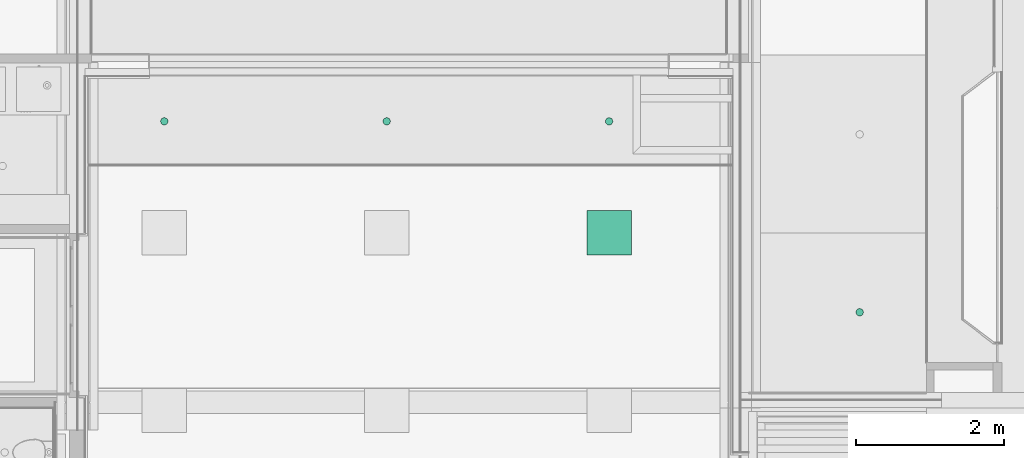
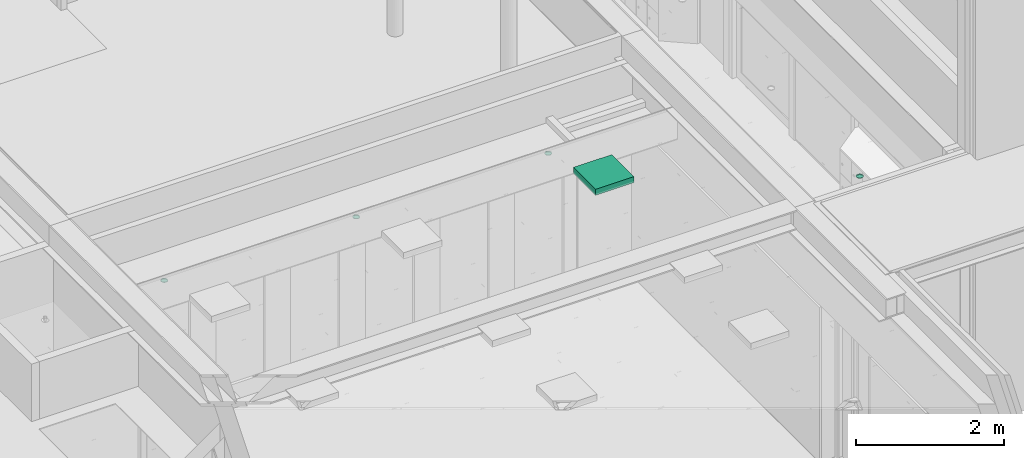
# One storey, part 240 of 347: 5 flow terminals.
"""IFC2X3 building model written with IfcOpenShell, lengths in millimetres."""

from ifc_helpers import new_model, entity, si_unit, converted_unit, derived_unit, money_unit, direction, frame, origin_with_axes, place, context, subcontext, project, spatial, open_shell, faceted_brep, surface_model, source, transform, mapped, type_object, type_shapes, element, save


model = new_model("IFC2X3")

# Units and contexts
model_context = context("Model", 3, precision=0.01, world=origin_with_axes(), true_north=direction((0.0, 1.0)))
plan_context = context("Plan", 3, precision=0.01, world=origin_with_axes(), true_north=direction((0.0, 1.0)))
body_context = subcontext(model_context, "Body", "Model", "MODEL_VIEW")
ifc_project = project(units=[si_unit("LENGTHUNIT", "METRE", prefix="MILLI"), si_unit("AREAUNIT", "SQUARE_METRE"), si_unit("VOLUMEUNIT", "CUBIC_METRE"), converted_unit("PLANEANGLEUNIT", "DEGREE", entity("IfcPlaneAngleMeasure", 0.0174532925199), si_unit("PLANEANGLEUNIT", "RADIAN"), dimensions=[0, 0, 0, 0, 0, 0, 0]), money_unit("EUR"), converted_unit("TIMEUNIT", "Year", entity("IfcTimeMeasure", 31556926.0), si_unit("TIMEUNIT", "SECOND"), dimensions=[0, 0, 1, 0, 0, 0, 0]), si_unit("MASSUNIT", "GRAM", prefix="KILO"), si_unit("THERMODYNAMICTEMPERATUREUNIT", "DEGREE_CELSIUS"), si_unit("LUMINOUSINTENSITYUNIT", "LUMEN"), si_unit("ENERGYUNIT", "JOULE", prefix="MEGA"), derived_unit("THERMALCONDUCTANCEUNIT", [(si_unit("POWERUNIT", "WATT"), 1), (si_unit("LENGTHUNIT", "METRE"), -1), (si_unit("THERMODYNAMICTEMPERATUREUNIT", "KELVIN"), -1)]), derived_unit("SPECIFICHEATCAPACITYUNIT", [(si_unit("ENERGYUNIT", "JOULE"), 1), (si_unit("MASSUNIT", "GRAM", prefix="KILO"), -1), (si_unit("THERMODYNAMICTEMPERATUREUNIT", "KELVIN"), -1)]), derived_unit("MASSDENSITYUNIT", [(si_unit("MASSUNIT", "GRAM", prefix="KILO"), 1), (si_unit("VOLUMEUNIT", "CUBIC_METRE"), -1)])], contexts=[model_context, plan_context])

# Site, building, storey
site_placement = place(None, origin_with_axes())
site = spatial("IfcSite", under=ifc_project, at=site_placement, Name="Site", CompositionType="ELEMENT")
building_placement = place(site_placement, origin_with_axes())
building = spatial("IfcBuilding", under=site, at=building_placement, Name="Naam gebouw", CompositionType="ELEMENT")
storey_placement = place(building_placement, origin_with_axes())
storey = spatial("IfcBuildingStorey", under=building, at=storey_placement, Name="begane grond", CompositionType="ELEMENT", Elevation=0.0)

# Flow terminals
lamp_type_1 = type_object("IfcLampType", Name="Spot plafond 01 25", PredefinedType="NOTDEFINED")
shared_shape_1 = source(origin_with_axes(), body_context, "Body", "SurfaceModel", [
    faceted_brep([(50.0, 0.0, -10.0), (46.1939766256, 19.1341716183, -10.0), (46.1939766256, 19.1341716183, 0.0), (50.0, 0.0, 0.0), (46.1939766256, -19.1341716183, -10.0), (35.3553390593, -35.3553390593, -10.0), (19.1341716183, -46.1939766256, -10.0), (0.0, -50.0, -10.0), (-19.1341716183, -46.1939766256, -10.0), (-35.3553390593, -35.3553390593, -10.0), (-46.1939766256, -19.1341716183, -10.0), (-50.0, 0.0, -10.0), (-46.1939766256, 19.1341716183, -10.0), (-35.3553390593, 35.3553390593, -10.0), (-19.1341716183, 46.1939766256, -10.0), (0.0, 50.0, -10.0), (19.1341716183, 46.1939766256, -10.0), (35.3553390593, 35.3553390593, -10.0), (40.0, 0.0, -10.0), (36.9551813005, 15.3073372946, -10.0), (28.2842712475, 28.2842712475, -10.0), (15.3073372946, 36.9551813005, -10.0), (0.0, 40.0, -10.0), (-15.3073372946, 36.9551813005, -10.0), (-28.2842712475, 28.2842712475, -10.0), (-36.9551813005, 15.3073372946, -10.0), (-40.0, 0.0, -10.0), (-36.9551813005, -15.3073372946, -10.0), (-28.2842712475, -28.2842712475, -10.0), (-15.3073372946, -36.9551813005, -10.0), (0.0, -40.0, -10.0), (15.3073372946, -36.9551813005, -10.0), (28.2842712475, -28.2842712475, -10.0), (36.9551813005, -15.3073372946, -10.0), (35.3553390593, 35.3553390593, 0.0), (19.1341716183, 46.1939766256, 0.0), (0.0, 50.0, 0.0), (-19.1341716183, 46.1939766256, 0.0), (-35.3553390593, 35.3553390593, 0.0), (-46.1939766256, 19.1341716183, 0.0), (-50.0, 0.0, 0.0), (-46.1939766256, -19.1341716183, 0.0), (-35.3553390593, -35.3553390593, 0.0), (-19.1341716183, -46.1939766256, 0.0), (0.0, -50.0, 0.0), (19.1341716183, -46.1939766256, 0.0), (35.3553390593, -35.3553390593, 0.0), (46.1939766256, -19.1341716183, 0.0), (40.0, 0.0, 0.0), (36.9551813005, -15.3073372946, 0.0), (28.2842712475, -28.2842712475, 0.0), (15.3073372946, -36.9551813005, 0.0), (0.0, -40.0, 0.0), (-15.3073372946, -36.9551813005, 0.0), (-28.2842712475, -28.2842712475, 0.0), (-36.9551813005, -15.3073372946, 0.0), (-40.0, 0.0, 0.0), (-36.9551813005, 15.3073372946, 0.0), (-28.2842712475, 28.2842712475, 0.0), (-15.3073372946, 36.9551813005, 0.0), (0.0, 40.0, 0.0), (15.3073372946, 36.9551813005, 0.0), (28.2842712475, 28.2842712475, 0.0), (36.9551813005, 15.3073372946, 0.0)], [[[0, 1, 2, 3]], [[0, 4, 5, 6, 7, 8, 9, 10, 11, 12, 13, 14, 15, 16, 17, 1], [18, 19, 20, 21, 22, 23, 24, 25, 26, 27, 28, 29, 30, 31, 32, 33]], [[1, 17, 34, 2]], [[3, 2, 34, 35, 36, 37, 38, 39, 40, 41, 42, 43, 44, 45, 46, 47], [48, 49, 50, 51, 52, 53, 54, 55, 56, 57, 58, 59, 60, 61, 62, 63]], [[4, 0, 3, 47]], [[5, 4, 47, 46]], [[6, 5, 46, 45]], [[7, 6, 45, 44]], [[8, 7, 44, 43]], [[9, 8, 43, 42]], [[10, 9, 42, 41]], [[11, 10, 41, 40]], [[12, 11, 40, 39]], [[13, 12, 39, 38]], [[14, 13, 38, 37]], [[15, 14, 37, 36]], [[16, 15, 36, 35]], [[17, 16, 35, 34]], [[19, 18, 48, 63]], [[20, 19, 63, 62]], [[21, 20, 62, 61]], [[22, 21, 61, 60]], [[23, 22, 60, 59]], [[24, 23, 59, 58]], [[25, 24, 58, 57]], [[26, 25, 57, 56]], [[27, 26, 56, 55]], [[28, 27, 55, 54]], [[29, 28, 54, 53]], [[30, 29, 53, 52]], [[31, 30, 52, 51]], [[32, 31, 51, 50]], [[33, 32, 50, 49]], [[18, 33, 49, 48]]]),
    surface_model("IfcShellBasedSurfaceModel", [(40.0, 0.0, -8.9), (36.9551813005, -15.3073372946, -8.9), (28.2842712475, -28.2842712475, -8.9), (15.3073372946, -36.9551813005, -8.9), (0.0, -40.0, -8.9), (-15.3073372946, -36.9551813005, -8.9), (-28.2842712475, -28.2842712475, -8.9), (-36.9551813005, -15.3073372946, -8.9), (-40.0, 0.0, -8.9), (-36.9551813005, 15.3073372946, -8.9), (-28.2842712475, 28.2842712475, -8.9), (-15.3073372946, 36.9551813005, -8.9), (0.0, 40.0, -8.9), (15.3073372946, 36.9551813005, -8.9), (28.2842712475, 28.2842712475, -8.9), (36.9551813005, 15.3073372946, -8.9)], [open_shell([[[0, 1, 2, 3, 4, 5, 6, 7, 8, 9, 10, 11, 12, 13, 14, 15]]])]),
])
type_shapes(lamp_type_1, [shared_shape_1])
for number, where, z_axis, x_axis, name in (
    (1, (42775.0000194, 15915.0095364, 3000.0), (0.0, 0.0, 1.0), (1.0, 0.0, 0.0), "63_Lamp-x"),
    (2, (36775.0000194, 15915.0095364, 3000.0), (0.0, 0.0, 1.0), (1.0, 0.0, 0.0), "63_Lamp-x"),
    (3, (46155.0, 13340.0001323, 3000.0), (0.0, 0.0, 1.0), (1.0, 0.0, 0.0), "63_Lamp-x"),
    (4, (39775.0000194, 15915.0095364, 3000.0), (0.0, 0.0, 1.0), (1.0, 0.0, 0.0), "63_Lamp-x"),
):
    element("IfcFlowTerminal", number, at=place(storey_placement, frame(where, z_axis=z_axis, x_axis=x_axis)), inside=storey, type_object=lamp_type_1, Name=name, ObjectType="Lamp", context=body_context, shape_type="MappedRepresentation", body=[
        mapped(shared_shape_1, transform((0.0, 0.0, 0.0))),
    ])
lamp_type_2 = type_object("IfcLampType", Name="TL plafond 25", PredefinedType="NOTDEFINED")
shared_shape_2 = source(origin_with_axes(), body_context, "Body", "SurfaceModel", [
    faceted_brep([(0.0, 0.0, -100.0), (600.0, 0.0, -100.0), (600.0, 0.0, 0.0), (0.0, 0.0, 0.0), (0.0, 600.0, -100.0), (600.0, 600.0, -100.0), (40.0, 40.0, -100.0), (560.0, 40.0, -100.0), (560.0, 560.0, -100.0), (40.0, 560.0, -100.0), (600.0, 600.0, 0.0), (0.0, 600.0, 0.0), (40.0, 40.0, 0.0), (40.0, 560.0, 0.0), (560.0, 560.0, 0.0), (560.0, 40.0, 0.0)], [[[0, 1, 2, 3]], [[0, 4, 5, 1], [6, 7, 8, 9]], [[1, 5, 10, 2]], [[3, 2, 10, 11], [12, 13, 14, 15]], [[4, 0, 3, 11]], [[5, 4, 11, 10]], [[7, 6, 12, 15]], [[8, 7, 15, 14]], [[9, 8, 14, 13]], [[6, 9, 13, 12]]]),
    faceted_brep([(40.0, 40.0, -16.3333333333), (560.0, 40.0, -16.3333333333), (560.0, 40.0, 0.0), (40.0, 40.0, 0.0), (40.0, 560.0, -16.3333333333), (560.0, 560.0, -16.3333333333), (560.0, 560.0, 0.0), (40.0, 560.0, 0.0)], [[[0, 1, 2, 3]], [[0, 4, 5, 1]], [[1, 5, 6, 2]], [[3, 2, 6, 7]], [[4, 0, 3, 7]], [[5, 4, 7, 6]]]),
    surface_model("IfcShellBasedSurfaceModel", [(559.0, 41.0, -100.0), (40.0, 41.0, -100.0), (40.0, 559.0, -100.0), (559.0, 559.0, -100.0)], [open_shell([[[0, 1, 2, 3]]])]),
    faceted_brep([(40.0, 40.0, -100.0), (560.0, 40.0, -100.0), (560.0, 40.0, -60.0), (40.0, 40.0, -60.0), (40.0, 560.0, -100.0), (560.0, 560.0, -100.0), (41.0, 41.0, -100.0), (559.0, 41.0, -100.0), (559.0, 559.0, -100.0), (41.0, 559.0, -100.0), (560.0, 560.0, -60.0), (40.0, 560.0, -60.0), (41.0, 41.0, -60.0), (41.0, 559.0, -60.0), (559.0, 559.0, -60.0), (559.0, 41.0, -60.0)], [[[0, 1, 2, 3]], [[0, 4, 5, 1], [6, 7, 8, 9]], [[1, 5, 10, 2]], [[3, 2, 10, 11], [12, 13, 14, 15]], [[4, 0, 3, 11]], [[5, 4, 11, 10]], [[7, 6, 12, 15]], [[8, 7, 15, 14]], [[9, 8, 14, 13]], [[6, 9, 13, 12]]]),
    faceted_brep([(40.0, 144.0, -48.3333333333), (40.0, 149.740251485, -47.191526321), (560.0, 149.740251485, -47.191526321), (560.0, 144.0, -48.3333333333), (40.0, 138.259748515, -47.191526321), (40.0, 133.393398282, -43.9399350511), (40.0, 130.141807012, -39.0735848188), (40.0, 129.0, -33.3333333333), (40.0, 130.141807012, -27.5930818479), (40.0, 133.393398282, -22.7267316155), (40.0, 138.259748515, -19.4751403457), (40.0, 144.0, -18.3333333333), (40.0, 149.740251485, -19.4751403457), (40.0, 154.606601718, -22.7267316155), (40.0, 157.858192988, -27.5930818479), (40.0, 159.0, -33.3333333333), (40.0, 157.858192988, -39.0735848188), (40.0, 154.606601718, -43.9399350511), (40.0, 144.0, -46.3333333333), (40.0, 148.974884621, -45.343767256), (40.0, 153.192388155, -42.5257214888), (40.0, 156.010433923, -38.3082179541), (40.0, 157.0, -33.3333333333), (40.0, 156.010433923, -28.3584487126), (40.0, 153.192388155, -24.1409451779), (40.0, 148.974884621, -21.3228994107), (40.0, 144.0, -20.3333333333), (40.0, 139.025115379, -21.3228994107), (40.0, 134.807611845, -24.1409451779), (40.0, 131.989566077, -28.3584487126), (40.0, 131.0, -33.3333333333), (40.0, 131.989566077, -38.3082179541), (40.0, 134.807611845, -42.5257214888), (40.0, 139.025115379, -45.343767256), (560.0, 154.606601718, -43.9399350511), (560.0, 157.858192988, -39.0735848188), (560.0, 159.0, -33.3333333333), (560.0, 157.858192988, -27.5930818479), (560.0, 154.606601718, -22.7267316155), (560.0, 149.740251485, -19.4751403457), (560.0, 144.0, -18.3333333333), (560.0, 138.259748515, -19.4751403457), (560.0, 133.393398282, -22.7267316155), (560.0, 130.141807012, -27.5930818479), (560.0, 129.0, -33.3333333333), (560.0, 130.141807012, -39.0735848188), (560.0, 133.393398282, -43.9399350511), (560.0, 138.259748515, -47.191526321), (560.0, 144.0, -46.3333333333), (560.0, 139.025115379, -45.343767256), (560.0, 134.807611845, -42.5257214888), (560.0, 131.989566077, -38.3082179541), (560.0, 131.0, -33.3333333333), (560.0, 131.989566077, -28.3584487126), (560.0, 134.807611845, -24.1409451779), (560.0, 139.025115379, -21.3228994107), (560.0, 144.0, -20.3333333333), (560.0, 148.974884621, -21.3228994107), (560.0, 153.192388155, -24.1409451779), (560.0, 156.010433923, -28.3584487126), (560.0, 157.0, -33.3333333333), (560.0, 156.010433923, -38.3082179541), (560.0, 153.192388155, -42.5257214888), (560.0, 148.974884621, -45.343767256)], [[[0, 1, 2, 3]], [[0, 4, 5, 6, 7, 8, 9, 10, 11, 12, 13, 14, 15, 16, 17, 1], [18, 19, 20, 21, 22, 23, 24, 25, 26, 27, 28, 29, 30, 31, 32, 33]], [[1, 17, 34, 2]], [[3, 2, 34, 35, 36, 37, 38, 39, 40, 41, 42, 43, 44, 45, 46, 47], [48, 49, 50, 51, 52, 53, 54, 55, 56, 57, 58, 59, 60, 61, 62, 63]], [[4, 0, 3, 47]], [[5, 4, 47, 46]], [[6, 5, 46, 45]], [[7, 6, 45, 44]], [[8, 7, 44, 43]], [[9, 8, 43, 42]], [[10, 9, 42, 41]], [[11, 10, 41, 40]], [[12, 11, 40, 39]], [[13, 12, 39, 38]], [[14, 13, 38, 37]], [[15, 14, 37, 36]], [[16, 15, 36, 35]], [[17, 16, 35, 34]], [[19, 18, 48, 63]], [[20, 19, 63, 62]], [[21, 20, 62, 61]], [[22, 21, 61, 60]], [[23, 22, 60, 59]], [[24, 23, 59, 58]], [[25, 24, 58, 57]], [[26, 25, 57, 56]], [[27, 26, 56, 55]], [[28, 27, 55, 54]], [[29, 28, 54, 53]], [[30, 29, 53, 52]], [[31, 30, 52, 51]], [[32, 31, 51, 50]], [[33, 32, 50, 49]], [[18, 33, 49, 48]]]),
    faceted_brep([(40.0, 248.0, -48.3333333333), (40.0, 253.740251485, -47.191526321), (560.0, 253.740251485, -47.191526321), (560.0, 248.0, -48.3333333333), (40.0, 242.259748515, -47.191526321), (40.0, 237.393398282, -43.9399350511), (40.0, 234.141807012, -39.0735848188), (40.0, 233.0, -33.3333333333), (40.0, 234.141807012, -27.5930818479), (40.0, 237.393398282, -22.7267316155), (40.0, 242.259748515, -19.4751403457), (40.0, 248.0, -18.3333333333), (40.0, 253.740251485, -19.4751403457), (40.0, 258.606601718, -22.7267316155), (40.0, 261.858192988, -27.5930818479), (40.0, 263.0, -33.3333333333), (40.0, 261.858192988, -39.0735848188), (40.0, 258.606601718, -43.9399350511), (40.0, 248.0, -46.3333333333), (40.0, 252.974884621, -45.343767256), (40.0, 257.192388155, -42.5257214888), (40.0, 260.010433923, -38.3082179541), (40.0, 261.0, -33.3333333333), (40.0, 260.010433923, -28.3584487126), (40.0, 257.192388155, -24.1409451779), (40.0, 252.974884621, -21.3228994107), (40.0, 248.0, -20.3333333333), (40.0, 243.025115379, -21.3228994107), (40.0, 238.807611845, -24.1409451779), (40.0, 235.989566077, -28.3584487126), (40.0, 235.0, -33.3333333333), (40.0, 235.989566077, -38.3082179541), (40.0, 238.807611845, -42.5257214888), (40.0, 243.025115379, -45.343767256), (560.0, 258.606601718, -43.9399350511), (560.0, 261.858192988, -39.0735848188), (560.0, 263.0, -33.3333333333), (560.0, 261.858192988, -27.5930818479), (560.0, 258.606601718, -22.7267316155), (560.0, 253.740251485, -19.4751403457), (560.0, 248.0, -18.3333333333), (560.0, 242.259748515, -19.4751403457), (560.0, 237.393398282, -22.7267316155), (560.0, 234.141807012, -27.5930818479), (560.0, 233.0, -33.3333333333), (560.0, 234.141807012, -39.0735848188), (560.0, 237.393398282, -43.9399350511), (560.0, 242.259748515, -47.191526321), (560.0, 248.0, -46.3333333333), (560.0, 243.025115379, -45.343767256), (560.0, 238.807611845, -42.5257214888), (560.0, 235.989566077, -38.3082179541), (560.0, 235.0, -33.3333333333), (560.0, 235.989566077, -28.3584487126), (560.0, 238.807611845, -24.1409451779), (560.0, 243.025115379, -21.3228994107), (560.0, 248.0, -20.3333333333), (560.0, 252.974884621, -21.3228994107), (560.0, 257.192388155, -24.1409451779), (560.0, 260.010433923, -28.3584487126), (560.0, 261.0, -33.3333333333), (560.0, 260.010433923, -38.3082179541), (560.0, 257.192388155, -42.5257214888), (560.0, 252.974884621, -45.343767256)], [[[0, 1, 2, 3]], [[0, 4, 5, 6, 7, 8, 9, 10, 11, 12, 13, 14, 15, 16, 17, 1], [18, 19, 20, 21, 22, 23, 24, 25, 26, 27, 28, 29, 30, 31, 32, 33]], [[1, 17, 34, 2]], [[3, 2, 34, 35, 36, 37, 38, 39, 40, 41, 42, 43, 44, 45, 46, 47], [48, 49, 50, 51, 52, 53, 54, 55, 56, 57, 58, 59, 60, 61, 62, 63]], [[4, 0, 3, 47]], [[5, 4, 47, 46]], [[6, 5, 46, 45]], [[7, 6, 45, 44]], [[8, 7, 44, 43]], [[9, 8, 43, 42]], [[10, 9, 42, 41]], [[11, 10, 41, 40]], [[12, 11, 40, 39]], [[13, 12, 39, 38]], [[14, 13, 38, 37]], [[15, 14, 37, 36]], [[16, 15, 36, 35]], [[17, 16, 35, 34]], [[19, 18, 48, 63]], [[20, 19, 63, 62]], [[21, 20, 62, 61]], [[22, 21, 61, 60]], [[23, 22, 60, 59]], [[24, 23, 59, 58]], [[25, 24, 58, 57]], [[26, 25, 57, 56]], [[27, 26, 56, 55]], [[28, 27, 55, 54]], [[29, 28, 54, 53]], [[30, 29, 53, 52]], [[31, 30, 52, 51]], [[32, 31, 51, 50]], [[33, 32, 50, 49]], [[18, 33, 49, 48]]]),
    faceted_brep([(40.0, 352.0, -48.3333333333), (40.0, 357.740251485, -47.191526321), (560.0, 357.740251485, -47.191526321), (560.0, 352.0, -48.3333333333), (40.0, 346.259748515, -47.191526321), (40.0, 341.393398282, -43.9399350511), (40.0, 338.141807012, -39.0735848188), (40.0, 337.0, -33.3333333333), (40.0, 338.141807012, -27.5930818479), (40.0, 341.393398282, -22.7267316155), (40.0, 346.259748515, -19.4751403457), (40.0, 352.0, -18.3333333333), (40.0, 357.740251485, -19.4751403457), (40.0, 362.606601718, -22.7267316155), (40.0, 365.858192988, -27.5930818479), (40.0, 367.0, -33.3333333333), (40.0, 365.858192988, -39.0735848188), (40.0, 362.606601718, -43.9399350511), (40.0, 352.0, -46.3333333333), (40.0, 356.974884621, -45.343767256), (40.0, 361.192388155, -42.5257214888), (40.0, 364.010433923, -38.3082179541), (40.0, 365.0, -33.3333333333), (40.0, 364.010433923, -28.3584487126), (40.0, 361.192388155, -24.1409451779), (40.0, 356.974884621, -21.3228994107), (40.0, 352.0, -20.3333333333), (40.0, 347.025115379, -21.3228994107), (40.0, 342.807611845, -24.1409451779), (40.0, 339.989566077, -28.3584487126), (40.0, 339.0, -33.3333333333), (40.0, 339.989566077, -38.3082179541), (40.0, 342.807611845, -42.5257214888), (40.0, 347.025115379, -45.343767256), (560.0, 362.606601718, -43.9399350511), (560.0, 365.858192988, -39.0735848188), (560.0, 367.0, -33.3333333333), (560.0, 365.858192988, -27.5930818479), (560.0, 362.606601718, -22.7267316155), (560.0, 357.740251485, -19.4751403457), (560.0, 352.0, -18.3333333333), (560.0, 346.259748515, -19.4751403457), (560.0, 341.393398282, -22.7267316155), (560.0, 338.141807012, -27.5930818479), (560.0, 337.0, -33.3333333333), (560.0, 338.141807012, -39.0735848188), (560.0, 341.393398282, -43.9399350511), (560.0, 346.259748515, -47.191526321), (560.0, 352.0, -46.3333333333), (560.0, 347.025115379, -45.343767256), (560.0, 342.807611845, -42.5257214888), (560.0, 339.989566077, -38.3082179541), (560.0, 339.0, -33.3333333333), (560.0, 339.989566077, -28.3584487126), (560.0, 342.807611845, -24.1409451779), (560.0, 347.025115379, -21.3228994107), (560.0, 352.0, -20.3333333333), (560.0, 356.974884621, -21.3228994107), (560.0, 361.192388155, -24.1409451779), (560.0, 364.010433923, -28.3584487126), (560.0, 365.0, -33.3333333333), (560.0, 364.010433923, -38.3082179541), (560.0, 361.192388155, -42.5257214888), (560.0, 356.974884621, -45.343767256)], [[[0, 1, 2, 3]], [[0, 4, 5, 6, 7, 8, 9, 10, 11, 12, 13, 14, 15, 16, 17, 1], [18, 19, 20, 21, 22, 23, 24, 25, 26, 27, 28, 29, 30, 31, 32, 33]], [[1, 17, 34, 2]], [[3, 2, 34, 35, 36, 37, 38, 39, 40, 41, 42, 43, 44, 45, 46, 47], [48, 49, 50, 51, 52, 53, 54, 55, 56, 57, 58, 59, 60, 61, 62, 63]], [[4, 0, 3, 47]], [[5, 4, 47, 46]], [[6, 5, 46, 45]], [[7, 6, 45, 44]], [[8, 7, 44, 43]], [[9, 8, 43, 42]], [[10, 9, 42, 41]], [[11, 10, 41, 40]], [[12, 11, 40, 39]], [[13, 12, 39, 38]], [[14, 13, 38, 37]], [[15, 14, 37, 36]], [[16, 15, 36, 35]], [[17, 16, 35, 34]], [[19, 18, 48, 63]], [[20, 19, 63, 62]], [[21, 20, 62, 61]], [[22, 21, 61, 60]], [[23, 22, 60, 59]], [[24, 23, 59, 58]], [[25, 24, 58, 57]], [[26, 25, 57, 56]], [[27, 26, 56, 55]], [[28, 27, 55, 54]], [[29, 28, 54, 53]], [[30, 29, 53, 52]], [[31, 30, 52, 51]], [[32, 31, 51, 50]], [[33, 32, 50, 49]], [[18, 33, 49, 48]]]),
    faceted_brep([(40.0, 456.0, -48.3333333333), (40.0, 461.740251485, -47.191526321), (560.0, 461.740251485, -47.191526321), (560.0, 456.0, -48.3333333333), (40.0, 450.259748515, -47.191526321), (40.0, 445.393398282, -43.9399350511), (40.0, 442.141807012, -39.0735848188), (40.0, 441.0, -33.3333333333), (40.0, 442.141807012, -27.5930818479), (40.0, 445.393398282, -22.7267316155), (40.0, 450.259748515, -19.4751403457), (40.0, 456.0, -18.3333333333), (40.0, 461.740251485, -19.4751403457), (40.0, 466.606601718, -22.7267316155), (40.0, 469.858192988, -27.5930818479), (40.0, 471.0, -33.3333333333), (40.0, 469.858192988, -39.0735848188), (40.0, 466.606601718, -43.9399350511), (40.0, 456.0, -46.3333333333), (40.0, 460.974884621, -45.343767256), (40.0, 465.192388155, -42.5257214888), (40.0, 468.010433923, -38.3082179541), (40.0, 469.0, -33.3333333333), (40.0, 468.010433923, -28.3584487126), (40.0, 465.192388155, -24.1409451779), (40.0, 460.974884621, -21.3228994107), (40.0, 456.0, -20.3333333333), (40.0, 451.025115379, -21.3228994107), (40.0, 446.807611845, -24.1409451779), (40.0, 443.989566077, -28.3584487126), (40.0, 443.0, -33.3333333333), (40.0, 443.989566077, -38.3082179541), (40.0, 446.807611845, -42.5257214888), (40.0, 451.025115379, -45.343767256), (560.0, 466.606601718, -43.9399350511), (560.0, 469.858192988, -39.0735848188), (560.0, 471.0, -33.3333333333), (560.0, 469.858192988, -27.5930818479), (560.0, 466.606601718, -22.7267316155), (560.0, 461.740251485, -19.4751403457), (560.0, 456.0, -18.3333333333), (560.0, 450.259748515, -19.4751403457), (560.0, 445.393398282, -22.7267316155), (560.0, 442.141807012, -27.5930818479), (560.0, 441.0, -33.3333333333), (560.0, 442.141807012, -39.0735848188), (560.0, 445.393398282, -43.9399350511), (560.0, 450.259748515, -47.191526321), (560.0, 456.0, -46.3333333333), (560.0, 451.025115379, -45.343767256), (560.0, 446.807611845, -42.5257214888), (560.0, 443.989566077, -38.3082179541), (560.0, 443.0, -33.3333333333), (560.0, 443.989566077, -28.3584487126), (560.0, 446.807611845, -24.1409451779), (560.0, 451.025115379, -21.3228994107), (560.0, 456.0, -20.3333333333), (560.0, 460.974884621, -21.3228994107), (560.0, 465.192388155, -24.1409451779), (560.0, 468.010433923, -28.3584487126), (560.0, 469.0, -33.3333333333), (560.0, 468.010433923, -38.3082179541), (560.0, 465.192388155, -42.5257214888), (560.0, 460.974884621, -45.343767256)], [[[0, 1, 2, 3]], [[0, 4, 5, 6, 7, 8, 9, 10, 11, 12, 13, 14, 15, 16, 17, 1], [18, 19, 20, 21, 22, 23, 24, 25, 26, 27, 28, 29, 30, 31, 32, 33]], [[1, 17, 34, 2]], [[3, 2, 34, 35, 36, 37, 38, 39, 40, 41, 42, 43, 44, 45, 46, 47], [48, 49, 50, 51, 52, 53, 54, 55, 56, 57, 58, 59, 60, 61, 62, 63]], [[4, 0, 3, 47]], [[5, 4, 47, 46]], [[6, 5, 46, 45]], [[7, 6, 45, 44]], [[8, 7, 44, 43]], [[9, 8, 43, 42]], [[10, 9, 42, 41]], [[11, 10, 41, 40]], [[12, 11, 40, 39]], [[13, 12, 39, 38]], [[14, 13, 38, 37]], [[15, 14, 37, 36]], [[16, 15, 36, 35]], [[17, 16, 35, 34]], [[19, 18, 48, 63]], [[20, 19, 63, 62]], [[21, 20, 62, 61]], [[22, 21, 61, 60]], [[23, 22, 60, 59]], [[24, 23, 59, 58]], [[25, 24, 58, 57]], [[26, 25, 57, 56]], [[27, 26, 56, 55]], [[28, 27, 55, 54]], [[29, 28, 54, 53]], [[30, 29, 53, 52]], [[31, 30, 52, 51]], [[32, 31, 51, 50]], [[33, 32, 50, 49]], [[18, 33, 49, 48]]]),
])
type_shapes(lamp_type_2, [shared_shape_2])
flow_terminal_placement = place(storey_placement, frame((42475.0000194, 14115.0095364, 3595.0), z_axis=(0.0, 0.0, 1.0), x_axis=(1.0, 0.0, 0.0)))
element("IfcFlowTerminal", 5, at=flow_terminal_placement, inside=storey, type_object=lamp_type_2, Name="63_Lamp-x", ObjectType="Lamp", context=body_context, shape_type="MappedRepresentation", body=[
    mapped(shared_shape_2, transform((0.0, 0.0, 0.0))),
])

save(model, "model.ifc")
